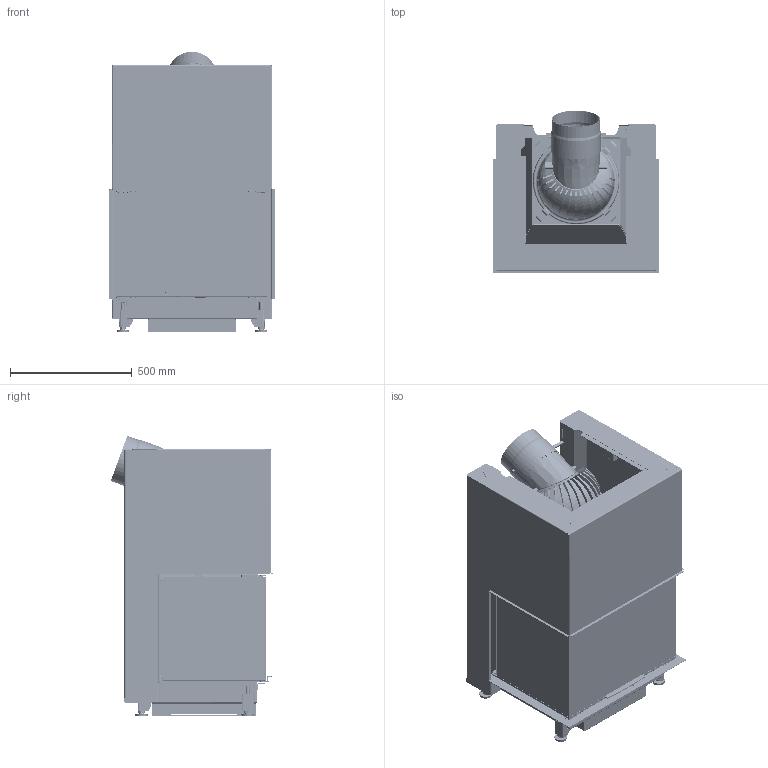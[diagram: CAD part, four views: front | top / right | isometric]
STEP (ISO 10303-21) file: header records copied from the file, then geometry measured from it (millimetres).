
FILE_DESCRIPTION(/* description */ (''),/* implementation_level */ '2;1');
FILE_NAME(/* name */ 'C:\ADSK_DM_WS\CAD_3D\03 Geraete\RIII 45x68x46\Zeichnungen\RIII 45x68x46 Gen.2 ohne Mantel Abgang hinten CAD Planung defriten 2021-03130 211124.stp',/* time_stamp */ '2021-11-24T10:11:35+01:00',/* author */ ('CPI'),/* organization */ (''),/* preprocessor_version */ 'ST-DEVELOPER v18.1',/* originating_system */ 'Autodesk Inventor 2022',/* authorisation */ '');
FILE_SCHEMA (('AUTOMOTIVE_DESIGN { 1 0 10303 214 3 1 1 }'));
Products named in the file (8): 2021-03130; 2021-03105; 2021-03107; 2021-0309; 2021-03111; 2021-03113; 2021-03069; 2018-00985
Assembly tree (7 placements, depth 2):
  2021-03130
    2021-03105
    2021-03107
    2021-0309
    2021-03111
    2021-03113
    2021-03069
    2018-00985
Bounding box: 680 x 668.17 x 1154.15 mm (x, y, z)
Volume: 31841207.9 mm3; surface area: 14718252.4 mm2
Topology: 21 solids, 35 shells, 8477 faces, 23456 edges, 14815 vertices
Faces by surface type: plane 5120, cylinder 2924, bspline 245, cone 121, torus 66, sphere 1
Full cylindrical faces by diameter (mm): 3.242 x6, 4.8 x1, 6 x3, 7.5 x8, 7.9 x2, 10 x10, 10.21 x4, 12 x4, 14.63 x2, 16 x10, 20 x8, 30 x4, 60 x4, 163 x1, 194 x1, 198 x1, 200 x1, 204 x1, 333 x1, 339 x1
Entity records: 283514 total; most frequent: CARTESIAN_POINT 59549, ORIENTED_EDGE 46856, DIRECTION 45773, EDGE_CURVE 23485, LINE 15577, VECTOR 15577, AXIS2_PLACEMENT_3D 15098, VERTEX_POINT 14819
